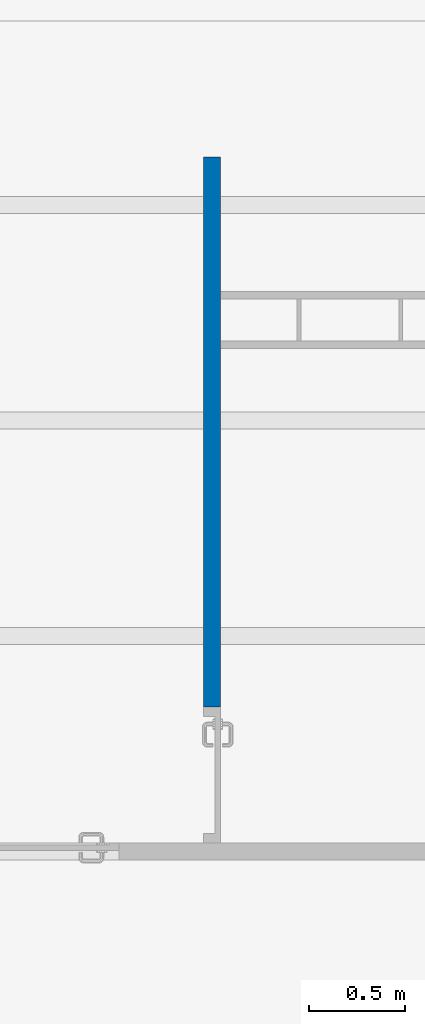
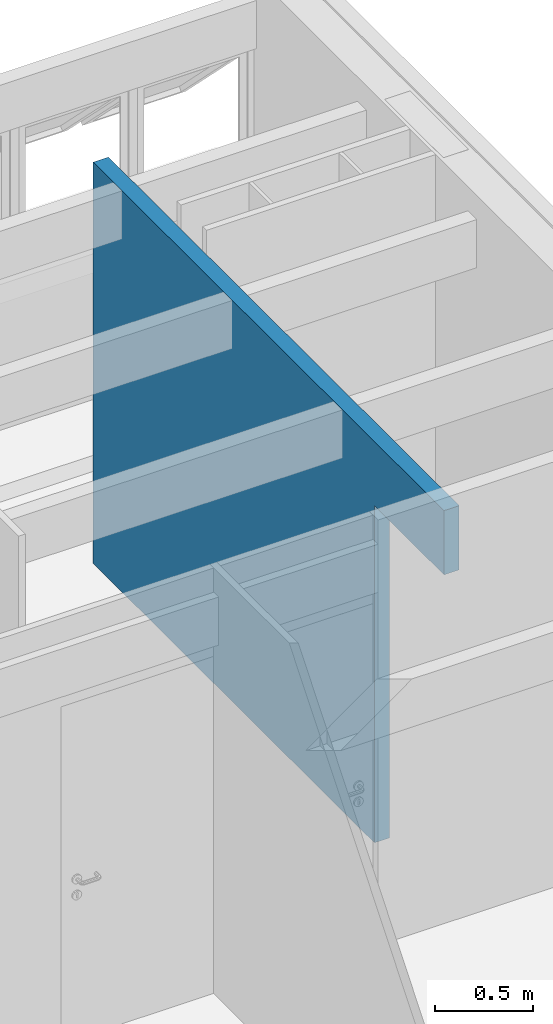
# One storey, part 25 of 41: 1 wall, 1 opening.
"""IFC4 building model written with IfcOpenShell, lengths in millimetres."""

from ifc_helpers import new_model, entity, si_unit, converted_unit, derived_unit, direction, frame, origin_with_axes, origin_2d_with_axis, place, context, subcontext, project, spatial, line, indexed_curve, rectangle, outline, extrude, material, layer, layer_set, layer_usage, type_object, element, save


model = new_model("IFC4")

# Units and contexts
model_context = context("Model", 3, precision=0.01, world=origin_with_axes(), true_north=direction((0.0, 1.0)))
body_context = subcontext(model_context, "Body", "Model", "MODEL_VIEW")
ifc_project = project(units=[si_unit("LENGTHUNIT", "METRE", prefix="MILLI"), si_unit("AREAUNIT", "SQUARE_METRE"), si_unit("VOLUMEUNIT", "CUBIC_METRE"), converted_unit("PLANEANGLEUNIT", "DEGREE", entity("IfcPlaneAngleMeasure", 0.0174532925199), si_unit("PLANEANGLEUNIT", "RADIAN"), dimensions=[0, 0, 0, 0, 0, 0, 0]), converted_unit("TIMEUNIT", "Year", entity("IfcTimeMeasure", 31556926.0), si_unit("TIMEUNIT", "SECOND"), dimensions=[0, 0, 1, 0, 0, 0, 0]), si_unit("MASSUNIT", "GRAM", prefix="KILO"), si_unit("THERMODYNAMICTEMPERATUREUNIT", "DEGREE_CELSIUS"), si_unit("LUMINOUSINTENSITYUNIT", "LUMEN"), si_unit("ENERGYUNIT", "JOULE", prefix="MEGA"), derived_unit("THERMALCONDUCTANCEUNIT", [(si_unit("POWERUNIT", "WATT"), 1), (si_unit("LENGTHUNIT", "METRE"), -1), (si_unit("THERMODYNAMICTEMPERATUREUNIT", "KELVIN"), -1)]), derived_unit("SPECIFICHEATCAPACITYUNIT", [(si_unit("ENERGYUNIT", "JOULE"), 1), (si_unit("MASSUNIT", "GRAM", prefix="KILO"), -1), (si_unit("THERMODYNAMICTEMPERATUREUNIT", "KELVIN"), -1)]), derived_unit("MASSDENSITYUNIT", [(si_unit("MASSUNIT", "GRAM", prefix="KILO"), 1), (si_unit("VOLUMEUNIT", "CUBIC_METRE"), -1)])], contexts=[model_context])

# Site, building, storey
site_placement = place(None, origin_with_axes())
site = spatial("IfcSite", under=ifc_project, at=site_placement, Name="Local", CompositionType="ELEMENT")
building_placement = place(site_placement, origin_with_axes())
building = spatial("IfcBuilding", under=site, at=building_placement, Name="Construção", CompositionType="ELEMENT")
storey_placement = place(building_placement, frame((0.0, 0.0, 2650.0), z_axis=(0.0, 0.0, 1.0), x_axis=(1.0, 0.0, 0.0)))
storey = spatial("IfcBuildingStorey", under=building, at=storey_placement, Name="Segundo Pavimento", CompositionType="ELEMENT", Elevation=2650.0)

# Wall, opening
ifc_material = material(Name="GENÉRICO - VEDAÇÃO EXTERNA")
ifc_layer = layer(ifc_material, 90.0, ventilated="UNKNOWN", Name="GENÉRICO - VEDAÇÃO EXTERNA")
ifc_layer_set = layer_set([ifc_layer], Name="GENÉRICO - VEDAÇÃO EXTERNA 90")
ifc_layer_usage = layer_usage(ifc_layer_set, "AXIS2", "POSITIVE", 0.0)
wall_type = type_object("IfcWallType", Name="GENÉRICO - VEDAÇÃO EXTERNA 90", PredefinedType="NOTDEFINED")
wall_placement = place(storey_placement, frame((13040.0, 7345.2195667, 0.0), z_axis=(0.0, 0.0, 1.0), x_axis=(0.0, -1.0, 0.0)))
wall = element("IfcWall", 1, at=wall_placement, inside=storey, type_object=wall_type, material=ifc_layer_usage, Name="APTO6-PAREDE-012", PredefinedType="NOTDEFINED", context=body_context, shape_type="SweptSolid", body=[
    extrude(outline(indexed_curve([(0.0, 0.0), (3580.0, 0.0), (3580.0, 90.0), (0.0, 90.0)], segments=[line(1, 2, 3, 4, 1)])), origin_with_axes(), (0.0, 0.0, 1.0), 2500.0),
])
opening_placement = place(wall_placement, frame((3225.0, 0.0, 0.0), z_axis=(0.0, 0.0, 1.0), x_axis=(1.0, 0.0, 0.0)))
element("IfcOpeningElement", 2, at=opening_placement, cuts=wall, Name="APTO6-PORTA-003", context=body_context, shape_type="SweptSolid", body=[
    extrude(rectangle(XDim=710.0, YDim=2100.0, at=origin_2d_with_axis()), frame((0.0, 90.0, 1050.0), z_axis=(0.0, -1.0, 0.0), x_axis=(1.0, 0.0, 0.0)), (0.0, 0.0, 1.0), 270.0),
])

save(model, "model.ifc")
